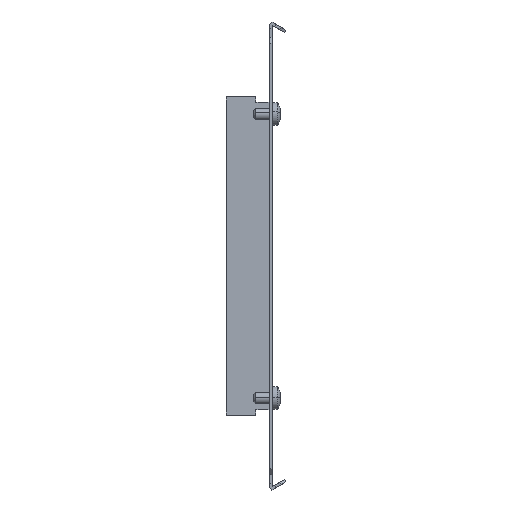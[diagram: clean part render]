
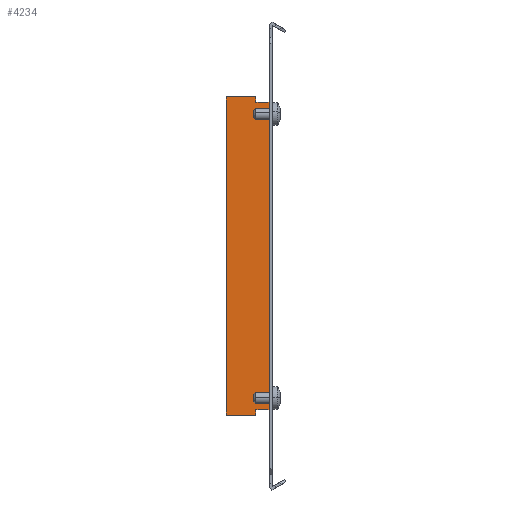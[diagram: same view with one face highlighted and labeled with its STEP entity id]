
A CAD part, left-side view. The second image highlights one B-rep face of the part: STEP entity #4234.
In plain terms, the highlighted planar face has unit normal (-1, 0, 0).
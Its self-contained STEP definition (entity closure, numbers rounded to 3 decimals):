
#42 = ORIENTED_EDGE ( 'NONE', *, *, #4544, .T. ) ;
#43 = ORIENTED_EDGE ( 'NONE', *, *, #784, .F. ) ;
#66 = CARTESIAN_POINT ( 'NONE',  ( 131.32, -7.058, 82.568 ) ) ;
#100 = VECTOR ( 'NONE', #4293, 1000. ) ;
#268 = DIRECTION ( 'NONE',  ( 0., 0., 1. ) ) ;
#298 = DIRECTION ( 'NONE',  ( 0., -1., 0. ) ) ;
#424 = CARTESIAN_POINT ( 'NONE',  ( 131.32, 0.192, 83.068 ) ) ;
#474 = VERTEX_POINT ( 'NONE', #5319 ) ;
#560 = ORIENTED_EDGE ( 'NONE', *, *, #856, .T. ) ;
#741 = EDGE_CURVE ( 'NONE', #1681, #4429, #5860, .T. ) ;
#745 = ORIENTED_EDGE ( 'NONE', *, *, #1618, .F. ) ;
#770 = CARTESIAN_POINT ( 'NONE',  ( 131.32, 15.942, -80.432 ) ) ;
#784 = EDGE_CURVE ( 'NONE', #6393, #2830, #6113, .T. ) ;
#841 = DIRECTION ( 'NONE',  ( 0., -1., 0. ) ) ;
#856 = EDGE_CURVE ( 'NONE', #6708, #2197, #6647, .T. ) ;
#863 = ORIENTED_EDGE ( 'NONE', *, *, #1808, .F. ) ;
#869 = LINE ( 'NONE', #2472, #5177 ) ;
#893 = CARTESIAN_POINT ( 'NONE',  ( 131.32, 15.942, -80.432 ) ) ;
#959 = DIRECTION ( 'NONE',  ( 0., 0., 1. ) ) ;
#1040 = ORIENTED_EDGE ( 'NONE', *, *, #6287, .F. ) ;
#1070 = CARTESIAN_POINT ( 'NONE',  ( 131.32, -7.058, 82.568 ) ) ;
#1111 = DIRECTION ( 'NONE',  ( 0., -1., 0. ) ) ;
#1113 = VERTEX_POINT ( 'NONE', #1171 ) ;
#1171 = CARTESIAN_POINT ( 'NONE',  ( 131.32, 0.192, -80.432 ) ) ;
#1234 = VERTEX_POINT ( 'NONE', #4955 ) ;
#1288 = EDGE_CURVE ( 'NONE', #6417, #4704, #3485, .T. ) ;
#1422 = ORIENTED_EDGE ( 'NONE', *, *, #6435, .F. ) ;
#1616 = CARTESIAN_POINT ( 'NONE',  ( 131.32, 0.192, 83.068 ) ) ;
#1618 = EDGE_CURVE ( 'NONE', #6708, #2553, #2363, .T. ) ;
#1681 = VERTEX_POINT ( 'NONE', #3969 ) ;
#1714 = CARTESIAN_POINT ( 'NONE',  ( 131.32, -5.558, 1.318 ) ) ;
#1746 = EDGE_CURVE ( 'NONE', #4429, #6417, #4628, .T. ) ;
#1808 = EDGE_CURVE ( 'NONE', #1234, #474, #4692, .T. ) ;
#1850 = DIRECTION ( 'NONE',  ( 0., 0., -1. ) ) ;
#1859 = LINE ( 'NONE', #2886, #6004 ) ;
#1908 = CARTESIAN_POINT ( 'NONE',  ( 131.32, -7.058, 1.318 ) ) ;
#2142 = LINE ( 'NONE', #1616, #6797 ) ;
#2160 = ORIENTED_EDGE ( 'NONE', *, *, #4392, .T. ) ;
#2161 = LINE ( 'NONE', #2199, #100 ) ;
#2166 = DIRECTION ( 'NONE',  ( 0., 0., 1. ) ) ;
#2197 = VERTEX_POINT ( 'NONE', #2952 ) ;
#2199 = CARTESIAN_POINT ( 'NONE',  ( 131.32, 0.192, -80.432 ) ) ;
#2203 = DIRECTION ( 'NONE',  ( -1., 0., 0. ) ) ;
#2222 = CARTESIAN_POINT ( 'NONE',  ( 131.32, 15.942, 85.568 ) ) ;
#2287 = CARTESIAN_POINT ( 'NONE',  ( 131.32, 15.942, 82.568 ) ) ;
#2363 = LINE ( 'NONE', #2287, #3786 ) ;
#2443 = CARTESIAN_POINT ( 'NONE',  ( 131.32, -5.558, 85.568 ) ) ;
#2472 = CARTESIAN_POINT ( 'NONE',  ( 131.32, 15.942, 1.318 ) ) ;
#2488 = DIRECTION ( 'NONE',  ( 0., -1., 0. ) ) ;
#2516 = DIRECTION ( 'NONE',  ( 0., 1., 0. ) ) ;
#2553 = VERTEX_POINT ( 'NONE', #3682 ) ;
#2635 = VECTOR ( 'NONE', #6747, 1000. ) ;
#2696 = PLANE ( 'NONE',  #3320 ) ;
#2792 = DIRECTION ( 'NONE',  ( 0., 0., -1. ) ) ;
#2822 = VERTEX_POINT ( 'NONE', #4004 ) ;
#2827 = DIRECTION ( 'NONE',  ( 0., 0., -1. ) ) ;
#2830 = VERTEX_POINT ( 'NONE', #6697 ) ;
#2886 = CARTESIAN_POINT ( 'NONE',  ( 131.32, -6.058, -79.932 ) ) ;
#2952 = CARTESIAN_POINT ( 'NONE',  ( 131.32, 15.942, -82.932 ) ) ;
#3320 = AXIS2_PLACEMENT_3D ( 'NONE', #1714, #2203, #2166 ) ;
#3324 = FACE_OUTER_BOUND ( 'NONE', #5817, .T. ) ;
#3455 = VERTEX_POINT ( 'NONE', #424 ) ;
#3485 = LINE ( 'NONE', #1908, #5949 ) ;
#3526 = CARTESIAN_POINT ( 'NONE',  ( 131.32, -5.558, -82.932 ) ) ;
#3608 = ORIENTED_EDGE ( 'NONE', *, *, #5174, .T. ) ;
#3617 = CARTESIAN_POINT ( 'NONE',  ( 131.32, 0.192, 83.068 ) ) ;
#3682 = CARTESIAN_POINT ( 'NONE',  ( 131.32, 15.942, 83.068 ) ) ;
#3715 = LINE ( 'NONE', #3794, #6065 ) ;
#3748 = DIRECTION ( 'NONE',  ( 0., 0., -1. ) ) ;
#3754 = EDGE_CURVE ( 'NONE', #2822, #2197, #5172, .T. ) ;
#3786 = VECTOR ( 'NONE', #268, 1000. ) ;
#3794 = CARTESIAN_POINT ( 'NONE',  ( 131.32, 0.192, 1.318 ) ) ;
#3921 = VECTOR ( 'NONE', #1111, 1000. ) ;
#3963 = CARTESIAN_POINT ( 'NONE',  ( 131.32, -6.058, 82.568 ) ) ;
#3969 = CARTESIAN_POINT ( 'NONE',  ( 131.32, 0.192, 82.568 ) ) ;
#4004 = CARTESIAN_POINT ( 'NONE',  ( 131.32, 0.192, -82.932 ) ) ;
#4039 = CARTESIAN_POINT ( 'NONE',  ( 131.32, -5.558, 82.568 ) ) ;
#4083 = ORIENTED_EDGE ( 'NONE', *, *, #1746, .F. ) ;
#4234 = ADVANCED_FACE ( 'NONE', ( #3324 ), #2696, .T. ) ;
#4293 = DIRECTION ( 'NONE',  ( 0., 0., 1. ) ) ;
#4392 = EDGE_CURVE ( 'NONE', #1234, #4704, #1859, .T. ) ;
#4429 = VERTEX_POINT ( 'NONE', #3963 ) ;
#4544 = EDGE_CURVE ( 'NONE', #1113, #474, #2161, .T. ) ;
#4628 = LINE ( 'NONE', #4039, #6912 ) ;
#4692 = LINE ( 'NONE', #5154, #5029 ) ;
#4704 = VERTEX_POINT ( 'NONE', #6847 ) ;
#4955 = CARTESIAN_POINT ( 'NONE',  ( 131.32, -6.058, -79.932 ) ) ;
#5029 = VECTOR ( 'NONE', #2516, 1000. ) ;
#5154 = CARTESIAN_POINT ( 'NONE',  ( 131.32, 15.942, -79.932 ) ) ;
#5172 = LINE ( 'NONE', #3526, #2635 ) ;
#5174 = EDGE_CURVE ( 'NONE', #3455, #2830, #5753, .T. ) ;
#5177 = VECTOR ( 'NONE', #6774, 1000. ) ;
#5218 = EDGE_CURVE ( 'NONE', #3455, #1681, #2142, .T. ) ;
#5319 = CARTESIAN_POINT ( 'NONE',  ( 131.32, 0.192, -79.932 ) ) ;
#5397 = VECTOR ( 'NONE', #1850, 1000. ) ;
#5691 = VECTOR ( 'NONE', #959, 1000. ) ;
#5753 = LINE ( 'NONE', #3617, #5691 ) ;
#5817 = EDGE_LOOP ( 'NONE', ( #863, #2160, #5825, #4083, #6259, #6404, #3608, #43, #1040, #745, #560, #6220, #1422, #42 ) ) ;
#5825 = ORIENTED_EDGE ( 'NONE', *, *, #1288, .F. ) ;
#5860 = LINE ( 'NONE', #1070, #3921 ) ;
#5949 = VECTOR ( 'NONE', #2827, 1000. ) ;
#6004 = VECTOR ( 'NONE', #298, 1000. ) ;
#6065 = VECTOR ( 'NONE', #2792, 1000. ) ;
#6113 = LINE ( 'NONE', #2443, #6741 ) ;
#6220 = ORIENTED_EDGE ( 'NONE', *, *, #3754, .F. ) ;
#6259 = ORIENTED_EDGE ( 'NONE', *, *, #741, .F. ) ;
#6287 = EDGE_CURVE ( 'NONE', #2553, #6393, #869, .T. ) ;
#6393 = VERTEX_POINT ( 'NONE', #2222 ) ;
#6404 = ORIENTED_EDGE ( 'NONE', *, *, #5218, .F. ) ;
#6417 = VERTEX_POINT ( 'NONE', #66 ) ;
#6435 = EDGE_CURVE ( 'NONE', #1113, #2822, #3715, .T. ) ;
#6647 = LINE ( 'NONE', #770, #5397 ) ;
#6697 = CARTESIAN_POINT ( 'NONE',  ( 131.32, 0.192, 85.568 ) ) ;
#6708 = VERTEX_POINT ( 'NONE', #893 ) ;
#6741 = VECTOR ( 'NONE', #841, 1000. ) ;
#6747 = DIRECTION ( 'NONE',  ( 0., 1., 0. ) ) ;
#6774 = DIRECTION ( 'NONE',  ( 0., 0., 1. ) ) ;
#6797 = VECTOR ( 'NONE', #3748, 1000. ) ;
#6847 = CARTESIAN_POINT ( 'NONE',  ( 131.32, -7.058, -79.932 ) ) ;
#6912 = VECTOR ( 'NONE', #2488, 1000. ) ;
